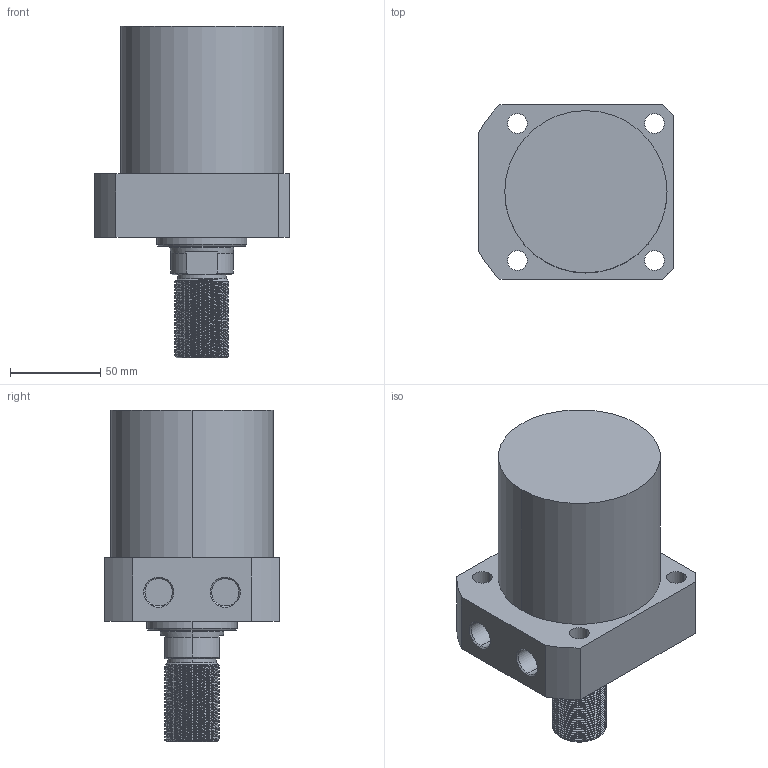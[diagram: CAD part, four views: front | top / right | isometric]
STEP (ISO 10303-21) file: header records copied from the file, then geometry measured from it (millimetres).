
FILE_DESCRIPTION (( 'STEP AP214' ), '1' );
FILE_NAME ('CLLR-090CT-060.STEP', '2020-01-09T06:43:41', ( 'Windows' ), ( 'Microsoft' ), 'SwSTEP 2.0', 'SolidWorks 2015', '' );
FILE_SCHEMA (( 'AUTOMOTIVE_DESIGN' ));
Length unit declared in the file: millimetre
Products named in the file (1): CLLR-090CT-060
Bounding box: 108 x 97 x 184 mm (x, y, z)
Volume: 913900.2 mm3; surface area: 72931.1 mm2
Topology: 1 solids, 1 shells, 124 faces, 329 edges, 215 vertices
Faces by surface type: cylinder 87, plane 20, cone 15, bspline 2
Entity records: 6988 total; most frequent: CARTESIAN_POINT 4162, ORIENTED_EDGE 658, DIRECTION 523, EDGE_CURVE 329, VERTEX_POINT 215, AXIS2_PLACEMENT_3D 200, EDGE_LOOP 140, FACE_OUTER_BOUND 124
